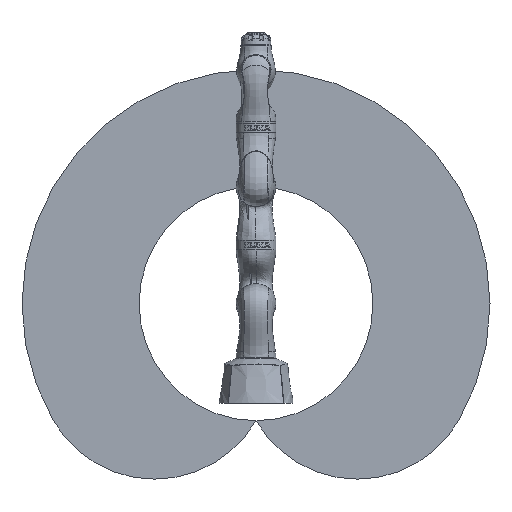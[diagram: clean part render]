
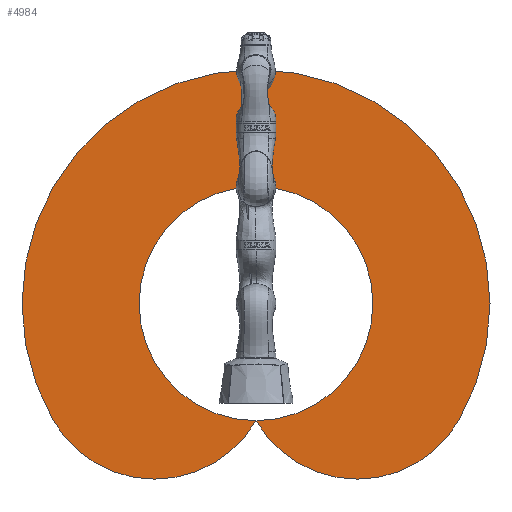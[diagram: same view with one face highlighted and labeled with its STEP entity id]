
A CAD part, front view. The second image highlights one B-rep face of the part: STEP entity #4984.
In plain terms, the highlighted planar face has unit normal (0, -1, 0).
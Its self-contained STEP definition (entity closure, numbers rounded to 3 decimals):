
#4984=ADVANCED_FACE('',(#6581,#6582),#6204,.F.);
#6204=PLANE('',#19397);
#6581=FACE_BOUND('',#7084,.T.);
#6582=FACE_BOUND('',#7085,.T.);
#7084=EDGE_LOOP('',(#8582,#8583,#8584));
#7085=EDGE_LOOP('',(#8585));
#8582=ORIENTED_EDGE('',*,*,#15695,.T.);
#8583=ORIENTED_EDGE('',*,*,#15696,.F.);
#8584=ORIENTED_EDGE('',*,*,#15697,.T.);
#8585=ORIENTED_EDGE('',*,*,#15698,.F.);
#13942=VERTEX_POINT('',#25964);
#13943=VERTEX_POINT('',#25965);
#13944=VERTEX_POINT('',#25967);
#13945=VERTEX_POINT('',#25970);
#15695=EDGE_CURVE('',#13942,#13943,#18375,.T.);
#15696=EDGE_CURVE('',#13944,#13943,#18376,.T.);
#15697=EDGE_CURVE('',#13944,#13942,#18377,.T.);
#15698=EDGE_CURVE('',#13945,#13945,#18378,.T.);
#18375=CIRCLE('',#19393,800.);
#18376=CIRCLE('',#19394,400.);
#18377=CIRCLE('',#19395,400.);
#18378=CIRCLE('',#19396,399.9);
#19393=AXIS2_PLACEMENT_3D('',#25963,#21303,#21304);
#19394=AXIS2_PLACEMENT_3D('',#25966,#21305,#21306);
#19395=AXIS2_PLACEMENT_3D('',#25968,#21307,#21308);
#19396=AXIS2_PLACEMENT_3D('',#25969,#21309,#21310);
#19397=AXIS2_PLACEMENT_3D('',#25971,#21311,#21312);
#21303=DIRECTION('',(0.,-1.,0.));
#21304=DIRECTION('',(1.,0.,0.));
#21305=DIRECTION('',(0.,1.,0.));
#21306=DIRECTION('',(-1.,0.,0.));
#21307=DIRECTION('',(0.,-1.,0.));
#21308=DIRECTION('',(1.,0.,0.));
#21309=DIRECTION('',(0.,-1.,0.));
#21310=DIRECTION('',(0.,0.,1.));
#21311=DIRECTION('',(0.,1.,0.));
#21312=DIRECTION('',(0.,0.,1.));
#25963=CARTESIAN_POINT('',(0.,-0.5,340.));
#25964=CARTESIAN_POINT('',(692.82,-0.5,-60.));
#25965=CARTESIAN_POINT('',(-692.82,-0.5,-60.));
#25966=CARTESIAN_POINT('',(-346.41,-0.5,140.));
#25967=CARTESIAN_POINT('',(0.,-0.5,-60.));
#25968=CARTESIAN_POINT('',(346.41,-0.5,140.));
#25969=CARTESIAN_POINT('',(0.,-0.5,340.));
#25970=CARTESIAN_POINT('',(0.,-0.5,739.9));
#25971=CARTESIAN_POINT('',(173.205,-0.5,240.));
